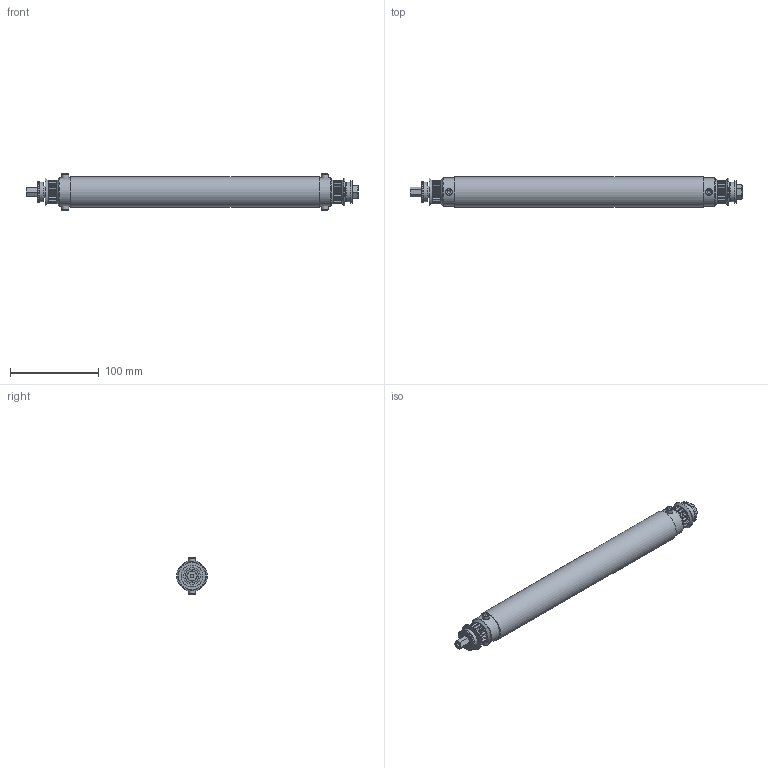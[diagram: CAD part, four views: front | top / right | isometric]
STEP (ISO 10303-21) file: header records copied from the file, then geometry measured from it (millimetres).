
FILE_DESCRIPTION(/* description */ ('STEP AP242 Edition 2','CAx-IF Rec.Pracs.---Representation and Presentation of Product Manufacturing Information (PMI)---4.0---2014-10-13','CAx-IF Rec.Pracs.---3D Tessellated Geometry---0.4---2014-09-14','2;1','CAx-IF Rec.Pracs.---User Defined Attributes---1.5---2016-08-15'),/* implementation_level */ '2;1');
FILE_NAME(/* name */ '69319da52aade48f1d454ae9',/* time_stamp */ '2025-12-04T14:41:42Z',/* author */ (''),/* organization */ (''),/* preprocessor_version */ 'ST-DEVELOPER v20',/* originating_system */ 'ONSHAPE BY PTC INC, 1.207',/* authorisation */ ' ');
FILE_SCHEMA (('AP242_MANAGED_MODEL_BASED_3D_ENGINEERING_MIM_LF { 1 0 10303 442 3 1 4 }'));
Length unit declared in the file: metre
Products named in the file (28): Tube (1x Dead Axle, 1x Live Axle); am-5752 Polycarbonate Roller; am-5753 Silicone Tubing; Dead Axle Roller Assembly <1>; am-1359; 17T Dead Axle Roller Insert; am-1054 3/8-16 Nylock Nut; am-1623 3/8-16 2in; am-1063 10-32 Nylock Jam Nut; am-4463 <1>; am-4463 3-8 in ID 7-8 in OD Sealed Flanged Bearing FR62RS; Live Axle Roller Assembly <1>; am-1744; 17T Live Axle Roller Insert; am-5003-0200; am-1523; am-4489 FR6 2RS-Hex HD Bearing
Assembly tree (33 placements, depth 4):
  Tube (1x Dead Axle, 1x Live Axle)
    am-5752 Polycarbonate Roller
    am-5753 Silicone Tubing
    Dead Axle Roller Assembly <1>
      am-1359  x2
      17T Dead Axle Roller Insert
      am-1054 3/8-16 Nylock Nut
      am-1623 3/8-16 2in
      am-1063 10-32 Nylock Jam Nut  x2
      am-4463 <1>
        am-4463 3-8 in ID 7-8 in OD Sealed Flanged Bearing FR62RS
        am-4463 3-8 in ID 7-8 in OD Sealed Flanged Bearing FR62RS
        am-4463 3-8 in ID 7-8 in OD Sealed Flanged Bearing FR62RS
        am-4463 3-8 in ID 7-8 in OD Sealed Flanged Bearing FR62RS
        am-4463 3-8 in ID 7-8 in OD Sealed Flanged Bearing FR62RS
        am-4463 3-8 in ID 7-8 in OD Sealed Flanged Bearing FR62RS
        am-4463 3-8 in ID 7-8 in OD Sealed Flanged Bearing FR62RS
        am-4463 3-8 in ID 7-8 in OD Sealed Flanged Bearing FR62RS
        am-4463 3-8 in ID 7-8 in OD Sealed Flanged Bearing FR62RS
        am-4463 3-8 in ID 7-8 in OD Sealed Flanged Bearing FR62RS
        am-4463 3-8 in ID 7-8 in OD Sealed Flanged Bearing FR62RS
        am-4463 3-8 in ID 7-8 in OD Sealed Flanged Bearing FR62RS
    Live Axle Roller Assembly <1>
      am-1744
      17T Live Axle Roller Insert
      am-1063 10-32 Nylock Jam Nut  x2
      am-5003-0200
      am-1523
      am-1359  x2
      am-4489 FR6 2RS-Hex HD Bearing
Bounding box: 373.3 x 34.54 x 40.57 mm (x, y, z)
Volume: 132533.8 mm3; surface area: 145231.7 mm2
Topology: 30 solids, 30 shells, 892 faces, 2188 edges, 1363 vertices
Faces by surface type: plane 347, cylinder 344, cone 169, torus 20, sphere 10, bspline 2
Full cylindrical faces by diameter (mm): 4.039 x2, 4.178 x12, 4.826 x21, 5.105 x8, 5.563 x1, 6.08 x4, 7.938 x5, 8.236 x5, 9.525 x22, 9.804 x1, 12.7 x2, 14.549 x4, 14.732 x2, 17.201 x4, 19.05 x3, 21.59 x1, 22.225 x2, 24.714 x1, 25.019 x1, 28.575 x3, 30.913 x4, 31.75 x2, 34.544 x1
Entity records: 21735 total; most frequent: CARTESIAN_POINT 5904, DIRECTION 3384, ORIENTED_EDGE 2868, EDGE_CURVE 1434, AXIS2_PLACEMENT_3D 1396, VERTEX_POINT 957, FACE_BOUND 837, EDGE_LOOP 825
